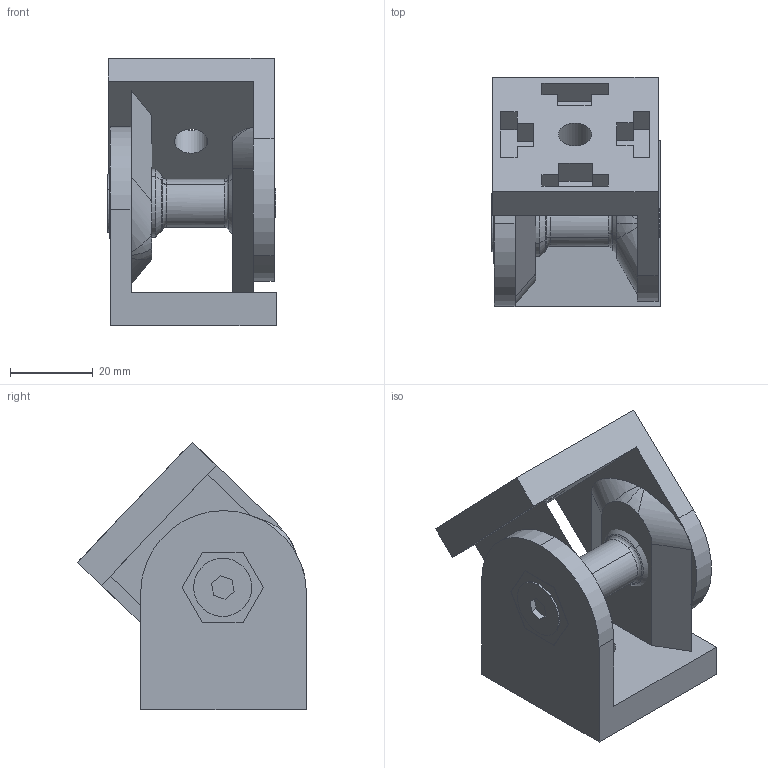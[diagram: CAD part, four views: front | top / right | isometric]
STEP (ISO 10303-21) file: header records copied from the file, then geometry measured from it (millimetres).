
FILE_DESCRIPTION (( 'STEP AP203' ), '1' );
FILE_NAME ('2024.STEP', '2016-04-06T14:55:40', ( '' ), ( '' ), 'SwSTEP 2.0', 'SolidWorks 2014', '' );
FILE_SCHEMA (( 'CONFIG_CONTROL_DESIGN' ));
Length unit declared in the file: millimetre
Products named in the file (4): 闃膼瘔; 碞鵻罻; 搿錓; 2024
Assembly tree (4 placements, depth 2):
  2024
    闃膼瘔  x2
    碞鵻罻
    搿錓
Bounding box: 40.6 x 55.21 x 64.48 mm (x, y, z)
Volume: 46544.8 mm3; surface area: 26081 mm2
Topology: 4 solids, 4 shells, 185 faces, 473 edges, 312 vertices
Faces by surface type: plane 136, cylinder 33, sphere 4, bspline 4, cone 4, torus 4
Entity records: 4533 total; most frequent: CARTESIAN_POINT 1379, ORIENTED_EDGE 562, DIRECTION 558, EDGE_CURVE 281, VECTOR 202, LINE 202, VERTEX_POINT 184, AXIS2_PLACEMENT_3D 178
